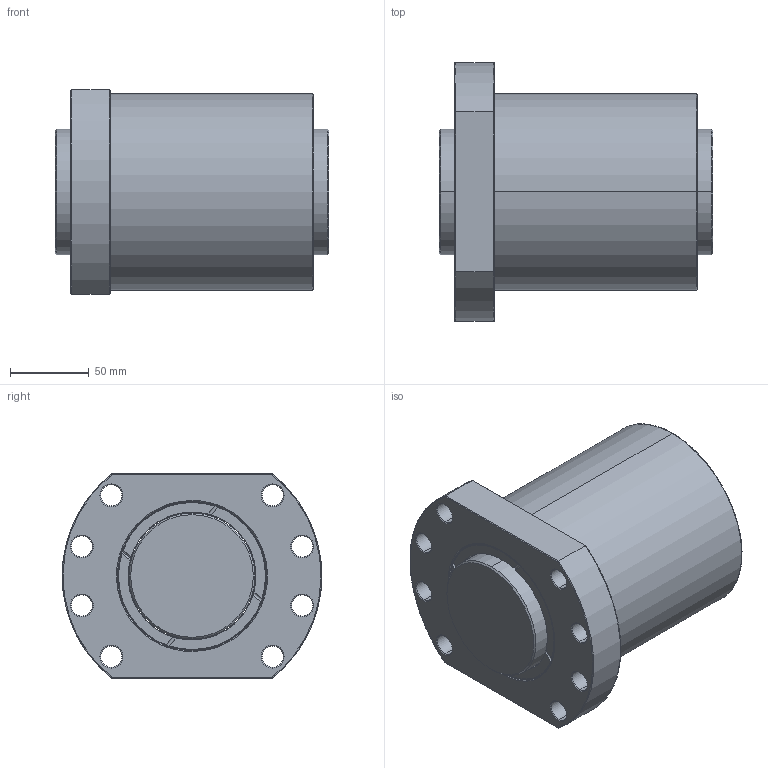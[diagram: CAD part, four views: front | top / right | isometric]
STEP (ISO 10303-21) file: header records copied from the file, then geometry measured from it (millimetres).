
FILE_DESCRIPTION (( 'STEP AP203' ), '1' );
FILE_NAME ('SFUR08020T4D-C.STEP', '2020-06-16T07:42:14', ( '' ), ( '' ), 'SwSTEP 2.0', 'SolidWorks 2013', '' );
FILE_SCHEMA (( 'CONFIG_CONTROL_DESIGN' ));
Length unit declared in the file: millimetre
Products named in the file (1): SFUR08020T4D-C
Bounding box: 174 x 164.73 x 130 mm (x, y, z)
Volume: 2031200.3 mm3; surface area: 195049.9 mm2
Topology: 2 solids, 3 shells, 151 faces, 373 edges, 229 vertices
Faces by surface type: cylinder 60, cone 36, bspline 30, plane 25
Entity records: 7913 total; most frequent: CARTESIAN_POINT 4401, ORIENTED_EDGE 746, DIRECTION 696, EDGE_CURVE 373, AXIS2_PLACEMENT_3D 294, VERTEX_POINT 229, EDGE_LOOP 176, CIRCLE 172
